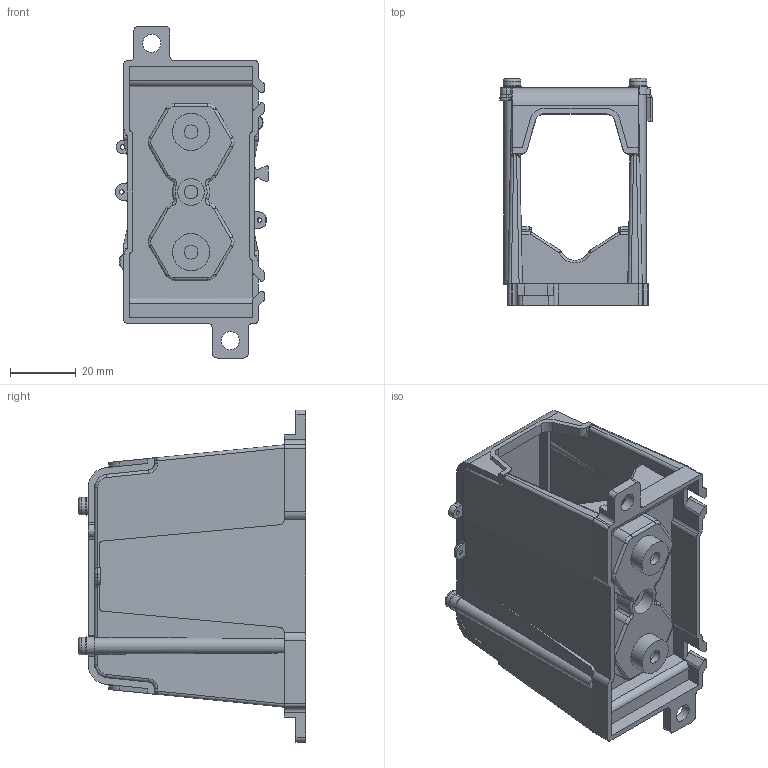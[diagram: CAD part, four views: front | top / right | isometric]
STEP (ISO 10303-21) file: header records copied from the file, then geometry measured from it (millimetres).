
FILE_DESCRIPTION(/* description */ ('Unknown'),/* implementation_level */ '2;1');
FILE_NAME(/* name */ 'DTS 1x',/* time_stamp */ '2024-05-20T11:19:28+02:00',/* author */ ('Unknown'),/* organization */ ('Unknown'),/* preprocessor_version */ 'ST-DEVELOPER v18.104',/* originating_system */ 'Solid Edge',/* authorisation */ 'Unknown');
FILE_SCHEMA (('AUTOMOTIVE_DESIGN {1 0 10303 214 3 1 1}'));
Length unit declared in the file: millimetre
Products named in the file (1): DTS 1x
Bounding box: 46.4 x 69.2 x 101.2 mm (x, y, z)
Volume: 45245.1 mm3; surface area: 40000.5 mm2
Topology: 1 solids, 1 shells, 736 faces, 1997 edges, 1203 vertices
Faces by surface type: plane 324, cylinder 298, torus 52, bspline 38, sphere 24
Full cylindrical faces by diameter (mm): 1.4 x4, 4.2 x3, 5.4 x2, 5.5 x4, 8 x2, 8.2 x1, 11.3 x2
Entity records: 22961 total; most frequent: CARTESIAN_POINT 4659, DIRECTION 3964, ORIENTED_EDGE 3782, EDGE_CURVE 1891, AXIS2_PLACEMENT_3D 1419, VERTEX_POINT 1189, LINE 1126, VECTOR 1126
